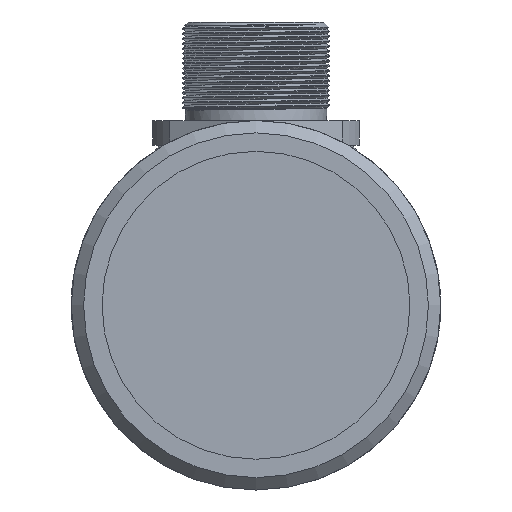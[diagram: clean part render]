
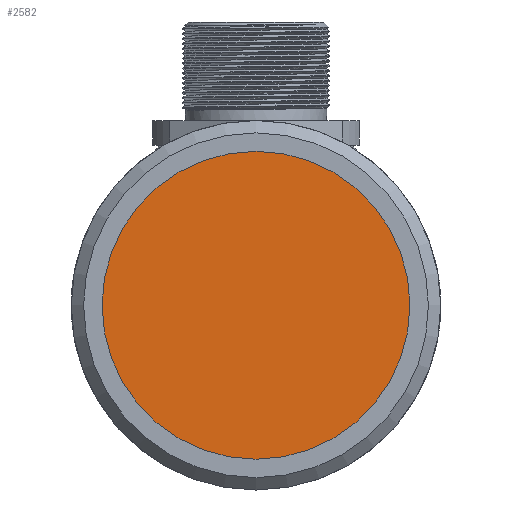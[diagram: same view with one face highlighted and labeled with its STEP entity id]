
A CAD part, left-side view. The second image highlights one B-rep face of the part: STEP entity #2582.
In plain terms, the highlighted planar face has unit normal (-1, 0, 0).
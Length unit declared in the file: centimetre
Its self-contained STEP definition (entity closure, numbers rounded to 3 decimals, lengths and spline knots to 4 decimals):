
#788=CIRCLE('',#2740,1.25);
#867=VERTEX_POINT('',#3341);
#1274=EDGE_CURVE('',#867,#867,#788,.T.);
#1592=ORIENTED_EDGE('',*,*,#1274,.T.);
#2191=EDGE_LOOP('',(#1592));
#2388=FACE_BOUND('',#2191,.T.);
#2582=ADVANCED_FACE('',(#2388),#14747,.T.);
#2740=AXIS2_PLACEMENT_3D('',#3340,#2935,#2936);
#2742=AXIS2_PLACEMENT_3D('',#3344,#2939,$);
#2935=DIRECTION('',(-1.,0.,0.));
#2936=DIRECTION('',(0.,0.,1.25));
#2939=DIRECTION('',(-1.,0.,0.));
#3340=CARTESIAN_POINT('',(0.1,0.,0.));
#3341=CARTESIAN_POINT('',(0.1,0.,1.25));
#3344=CARTESIAN_POINT('',(0.1,0.,0.));
#14747=PLANE('',#2742);
